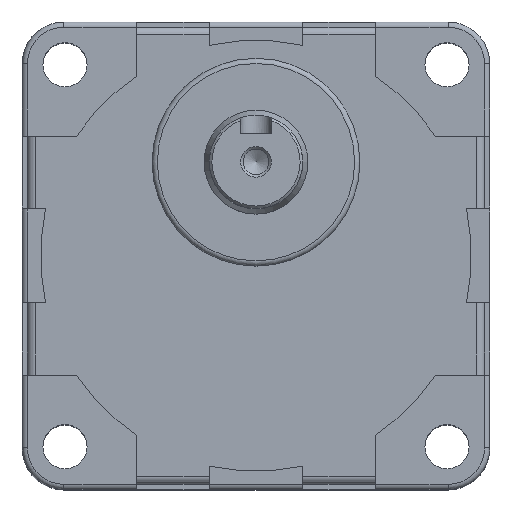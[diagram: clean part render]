
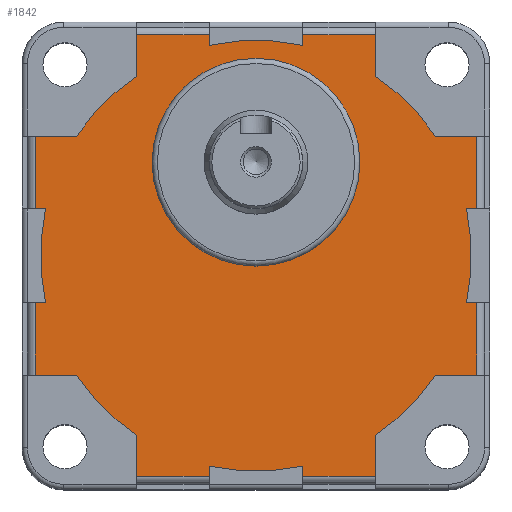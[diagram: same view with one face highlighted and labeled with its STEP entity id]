
A CAD part, top view. The second image highlights one B-rep face of the part: STEP entity #1842.
In plain terms, the highlighted planar face has unit normal (0, 0, 1).
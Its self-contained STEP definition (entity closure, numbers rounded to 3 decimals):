
#42=LINE('',#2827,#214);
#46=LINE('',#2839,#218);
#48=LINE('',#2845,#220);
#49=LINE('',#2849,#221);
#50=LINE('',#2851,#222);
#51=LINE('',#2853,#223);
#52=LINE('',#2857,#224);
#53=LINE('',#2859,#225);
#54=LINE('',#2861,#226);
#55=LINE('',#2865,#227);
#56=LINE('',#2867,#228);
#57=LINE('',#2869,#229);
#58=LINE('',#2873,#230);
#59=LINE('',#2875,#231);
#60=LINE('',#2877,#232);
#61=LINE('',#2881,#233);
#62=LINE('',#2883,#234);
#63=LINE('',#2885,#235);
#64=LINE('',#2889,#236);
#65=LINE('',#2891,#237);
#66=LINE('',#2893,#238);
#67=LINE('',#2896,#239);
#68=LINE('',#2898,#240);
#69=LINE('',#2901,#241);
#214=VECTOR('',#2241,14.);
#218=VECTOR('',#2251,14.);
#220=VECTOR('',#2257,7.957);
#221=VECTOR('',#2260,7.957);
#222=VECTOR('',#2261,14.);
#223=VECTOR('',#2262,1.988);
#224=VECTOR('',#2265,1.988);
#225=VECTOR('',#2266,14.);
#226=VECTOR('',#2267,7.957);
#227=VECTOR('',#2270,7.957);
#228=VECTOR('',#2271,14.);
#229=VECTOR('',#2272,1.988);
#230=VECTOR('',#2275,1.988);
#231=VECTOR('',#2276,14.);
#232=VECTOR('',#2277,7.957);
#233=VECTOR('',#2280,7.957);
#234=VECTOR('',#2281,14.);
#235=VECTOR('',#2282,1.988);
#236=VECTOR('',#2285,1.988);
#237=VECTOR('',#2286,14.);
#238=VECTOR('',#2287,7.957);
#239=VECTOR('',#2290,7.957);
#240=VECTOR('',#2291,1.988);
#241=VECTOR('',#2294,1.988);
#383=PLANE('',#1980);
#446=FACE_BOUND('',#606,.T.);
#480=FACE_OUTER_BOUND('',#605,.T.);
#605=EDGE_LOOP('',(#1324,#1325,#1326,#1327,#1328,#1329,#1330,#1331,#1332,
#1333,#1334,#1335,#1336,#1337,#1338,#1339,#1340,#1341,#1342,#1343,#1344,
#1345,#1346,#1347,#1348,#1349,#1350,#1351,#1352,#1353,#1354,#1355));
#606=EDGE_LOOP('',(#1356));
#720=CIRCLE('',#1971,20.);
#725=CIRCLE('',#1981,41.5);
#726=CIRCLE('',#1982,41.5);
#727=CIRCLE('',#1983,41.5);
#728=CIRCLE('',#1984,41.5);
#729=CIRCLE('',#1985,41.5);
#730=CIRCLE('',#1986,41.5);
#731=CIRCLE('',#1987,41.5);
#732=CIRCLE('',#1988,41.5);
#824=VERTEX_POINT('',#2816);
#825=VERTEX_POINT('',#2820);
#828=VERTEX_POINT('',#2825);
#832=VERTEX_POINT('',#2836);
#833=VERTEX_POINT('',#2838);
#835=VERTEX_POINT('',#2844);
#836=VERTEX_POINT('',#2846);
#837=VERTEX_POINT('',#2848);
#838=VERTEX_POINT('',#2850);
#839=VERTEX_POINT('',#2852);
#840=VERTEX_POINT('',#2854);
#841=VERTEX_POINT('',#2856);
#842=VERTEX_POINT('',#2858);
#843=VERTEX_POINT('',#2860);
#844=VERTEX_POINT('',#2862);
#845=VERTEX_POINT('',#2864);
#846=VERTEX_POINT('',#2866);
#847=VERTEX_POINT('',#2868);
#848=VERTEX_POINT('',#2870);
#849=VERTEX_POINT('',#2872);
#850=VERTEX_POINT('',#2874);
#851=VERTEX_POINT('',#2876);
#852=VERTEX_POINT('',#2878);
#853=VERTEX_POINT('',#2880);
#854=VERTEX_POINT('',#2882);
#855=VERTEX_POINT('',#2884);
#856=VERTEX_POINT('',#2886);
#857=VERTEX_POINT('',#2888);
#858=VERTEX_POINT('',#2890);
#859=VERTEX_POINT('',#2892);
#860=VERTEX_POINT('',#2894);
#861=VERTEX_POINT('',#2897);
#862=VERTEX_POINT('',#2899);
#1013=EDGE_CURVE('',#824,#824,#720,.T.);
#1017=EDGE_CURVE('',#828,#825,#42,.T.);
#1022=EDGE_CURVE('',#832,#833,#46,.T.);
#1025=EDGE_CURVE('',#828,#835,#48,.T.);
#1026=EDGE_CURVE('',#836,#835,#725,.T.);
#1027=EDGE_CURVE('',#837,#836,#49,.T.);
#1028=EDGE_CURVE('',#838,#837,#50,.T.);
#1029=EDGE_CURVE('',#839,#838,#51,.T.);
#1030=EDGE_CURVE('',#840,#839,#726,.T.);
#1031=EDGE_CURVE('',#840,#841,#52,.T.);
#1032=EDGE_CURVE('',#842,#841,#53,.T.);
#1033=EDGE_CURVE('',#842,#843,#54,.T.);
#1034=EDGE_CURVE('',#844,#843,#727,.T.);
#1035=EDGE_CURVE('',#845,#844,#55,.T.);
#1036=EDGE_CURVE('',#846,#845,#56,.T.);
#1037=EDGE_CURVE('',#847,#846,#57,.T.);
#1038=EDGE_CURVE('',#848,#847,#728,.T.);
#1039=EDGE_CURVE('',#848,#849,#58,.T.);
#1040=EDGE_CURVE('',#850,#849,#59,.T.);
#1041=EDGE_CURVE('',#850,#851,#60,.T.);
#1042=EDGE_CURVE('',#852,#851,#729,.T.);
#1043=EDGE_CURVE('',#853,#852,#61,.T.);
#1044=EDGE_CURVE('',#854,#853,#62,.T.);
#1045=EDGE_CURVE('',#855,#854,#63,.T.);
#1046=EDGE_CURVE('',#856,#855,#730,.T.);
#1047=EDGE_CURVE('',#856,#857,#64,.T.);
#1048=EDGE_CURVE('',#858,#857,#65,.T.);
#1049=EDGE_CURVE('',#858,#859,#66,.T.);
#1050=EDGE_CURVE('',#860,#859,#731,.T.);
#1051=EDGE_CURVE('',#833,#860,#67,.T.);
#1052=EDGE_CURVE('',#861,#832,#68,.T.);
#1053=EDGE_CURVE('',#862,#861,#732,.T.);
#1054=EDGE_CURVE('',#862,#825,#69,.T.);
#1324=ORIENTED_EDGE('',*,*,#1017,.F.);
#1325=ORIENTED_EDGE('',*,*,#1025,.T.);
#1326=ORIENTED_EDGE('',*,*,#1026,.F.);
#1327=ORIENTED_EDGE('',*,*,#1027,.F.);
#1328=ORIENTED_EDGE('',*,*,#1028,.F.);
#1329=ORIENTED_EDGE('',*,*,#1029,.F.);
#1330=ORIENTED_EDGE('',*,*,#1030,.F.);
#1331=ORIENTED_EDGE('',*,*,#1031,.T.);
#1332=ORIENTED_EDGE('',*,*,#1032,.F.);
#1333=ORIENTED_EDGE('',*,*,#1033,.T.);
#1334=ORIENTED_EDGE('',*,*,#1034,.F.);
#1335=ORIENTED_EDGE('',*,*,#1035,.F.);
#1336=ORIENTED_EDGE('',*,*,#1036,.F.);
#1337=ORIENTED_EDGE('',*,*,#1037,.F.);
#1338=ORIENTED_EDGE('',*,*,#1038,.F.);
#1339=ORIENTED_EDGE('',*,*,#1039,.T.);
#1340=ORIENTED_EDGE('',*,*,#1040,.F.);
#1341=ORIENTED_EDGE('',*,*,#1041,.T.);
#1342=ORIENTED_EDGE('',*,*,#1042,.F.);
#1343=ORIENTED_EDGE('',*,*,#1043,.F.);
#1344=ORIENTED_EDGE('',*,*,#1044,.F.);
#1345=ORIENTED_EDGE('',*,*,#1045,.F.);
#1346=ORIENTED_EDGE('',*,*,#1046,.F.);
#1347=ORIENTED_EDGE('',*,*,#1047,.T.);
#1348=ORIENTED_EDGE('',*,*,#1048,.F.);
#1349=ORIENTED_EDGE('',*,*,#1049,.T.);
#1350=ORIENTED_EDGE('',*,*,#1050,.F.);
#1351=ORIENTED_EDGE('',*,*,#1051,.F.);
#1352=ORIENTED_EDGE('',*,*,#1022,.F.);
#1353=ORIENTED_EDGE('',*,*,#1052,.F.);
#1354=ORIENTED_EDGE('',*,*,#1053,.F.);
#1355=ORIENTED_EDGE('',*,*,#1054,.T.);
#1356=ORIENTED_EDGE('',*,*,#1013,.F.);
#1842=ADVANCED_FACE('',(#480,#446),#383,.T.);
#1971=AXIS2_PLACEMENT_3D('',#2817,#2230,#2231);
#1980=AXIS2_PLACEMENT_3D('',#2843,#2255,#2256);
#1981=AXIS2_PLACEMENT_3D('',#2847,#2258,#2259);
#1982=AXIS2_PLACEMENT_3D('',#2855,#2263,#2264);
#1983=AXIS2_PLACEMENT_3D('',#2863,#2268,#2269);
#1984=AXIS2_PLACEMENT_3D('',#2871,#2273,#2274);
#1985=AXIS2_PLACEMENT_3D('',#2879,#2278,#2279);
#1986=AXIS2_PLACEMENT_3D('',#2887,#2283,#2284);
#1987=AXIS2_PLACEMENT_3D('',#2895,#2288,#2289);
#1988=AXIS2_PLACEMENT_3D('',#2900,#2292,#2293);
#2230=DIRECTION('center_axis',(0.,0.,1.));
#2231=DIRECTION('ref_axis',(-1.,0.,0.));
#2241=DIRECTION('',(0.,-1.,0.));
#2251=DIRECTION('',(0.,-1.,0.));
#2255=DIRECTION('center_axis',(0.,0.,1.));
#2256=DIRECTION('ref_axis',(1.,0.,0.));
#2257=DIRECTION('',(-1.,0.,0.));
#2258=DIRECTION('center_axis',(0.,0.,-1.));
#2259=DIRECTION('ref_axis',(-1.,0.,0.));
#2260=DIRECTION('',(0.,-1.,0.));
#2261=DIRECTION('',(1.,0.,0.));
#2262=DIRECTION('',(0.,1.,0.));
#2263=DIRECTION('center_axis',(0.,0.,-1.));
#2264=DIRECTION('ref_axis',(-1.,0.,0.));
#2265=DIRECTION('',(0.,1.,0.));
#2266=DIRECTION('',(1.,0.,0.));
#2267=DIRECTION('',(0.,-1.,0.));
#2268=DIRECTION('center_axis',(0.,0.,-1.));
#2269=DIRECTION('ref_axis',(-1.,0.,0.));
#2270=DIRECTION('',(1.,0.,0.));
#2271=DIRECTION('',(0.,1.,0.));
#2272=DIRECTION('',(-1.,0.,0.));
#2273=DIRECTION('center_axis',(0.,0.,-1.));
#2274=DIRECTION('ref_axis',(-1.,0.,0.));
#2275=DIRECTION('',(-1.,0.,0.));
#2276=DIRECTION('',(0.,1.,0.));
#2277=DIRECTION('',(1.,0.,0.));
#2278=DIRECTION('center_axis',(0.,0.,-1.));
#2279=DIRECTION('ref_axis',(-1.,0.,0.));
#2280=DIRECTION('',(0.,1.,0.));
#2281=DIRECTION('',(-1.,0.,0.));
#2282=DIRECTION('',(0.,-1.,0.));
#2283=DIRECTION('center_axis',(0.,0.,-1.));
#2284=DIRECTION('ref_axis',(-1.,0.,0.));
#2285=DIRECTION('',(0.,-1.,0.));
#2286=DIRECTION('',(-1.,0.,0.));
#2287=DIRECTION('',(0.,1.,0.));
#2288=DIRECTION('center_axis',(0.,0.,-1.));
#2289=DIRECTION('ref_axis',(-1.,0.,0.));
#2290=DIRECTION('',(-1.,0.,0.));
#2291=DIRECTION('',(1.,0.,0.));
#2292=DIRECTION('center_axis',(0.,0.,-1.));
#2293=DIRECTION('ref_axis',(-1.,0.,0.));
#2294=DIRECTION('',(1.,0.,0.));
#2816=CARTESIAN_POINT('',(20.,18.,57.2));
#2817=CARTESIAN_POINT('Origin',(0.,18.,57.2));
#2820=CARTESIAN_POINT('',(42.5,9.,57.2));
#2825=CARTESIAN_POINT('',(42.5,23.,57.2));
#2827=CARTESIAN_POINT('',(42.5,11.5,57.2));
#2836=CARTESIAN_POINT('',(42.5,-9.,57.2));
#2838=CARTESIAN_POINT('',(42.5,-23.,57.2));
#2839=CARTESIAN_POINT('',(42.5,-11.5,57.2));
#2843=CARTESIAN_POINT('Origin',(0.,0.,
57.2));
#2844=CARTESIAN_POINT('',(34.543,23.,57.2));
#2845=CARTESIAN_POINT('',(34.543,23.,57.2));
#2846=CARTESIAN_POINT('',(23.,34.543,57.2));
#2847=CARTESIAN_POINT('Origin',(0.,0.,57.2));
#2848=CARTESIAN_POINT('',(23.,42.5,57.2));
#2849=CARTESIAN_POINT('',(23.,34.543,57.2));
#2850=CARTESIAN_POINT('',(9.,42.5,57.2));
#2851=CARTESIAN_POINT('',(11.5,42.5,57.2));
#2852=CARTESIAN_POINT('',(9.,40.512,57.2));
#2853=CARTESIAN_POINT('',(9.,45.,57.2));
#2854=CARTESIAN_POINT('',(-9.,40.512,57.2));
#2855=CARTESIAN_POINT('Origin',(0.,0.,57.2));
#2856=CARTESIAN_POINT('',(-9.,42.5,57.2));
#2857=CARTESIAN_POINT('',(-9.,45.,57.2));
#2858=CARTESIAN_POINT('',(-23.,42.5,57.2));
#2859=CARTESIAN_POINT('',(-11.5,42.5,57.2));
#2860=CARTESIAN_POINT('',(-23.,34.543,57.2));
#2861=CARTESIAN_POINT('',(-23.,34.543,57.2));
#2862=CARTESIAN_POINT('',(-34.543,23.,57.2));
#2863=CARTESIAN_POINT('Origin',(0.,0.,57.2));
#2864=CARTESIAN_POINT('',(-42.5,23.,57.2));
#2865=CARTESIAN_POINT('',(-34.543,23.,57.2));
#2866=CARTESIAN_POINT('',(-42.5,9.,57.2));
#2867=CARTESIAN_POINT('',(-42.5,11.5,57.2));
#2868=CARTESIAN_POINT('',(-40.512,9.,57.2));
#2869=CARTESIAN_POINT('',(-45.,9.,57.2));
#2870=CARTESIAN_POINT('',(-40.512,-9.,57.2));
#2871=CARTESIAN_POINT('Origin',(0.,0.,57.2));
#2872=CARTESIAN_POINT('',(-42.5,-9.,57.2));
#2873=CARTESIAN_POINT('',(-45.,-9.,57.2));
#2874=CARTESIAN_POINT('',(-42.5,-23.,57.2));
#2875=CARTESIAN_POINT('',(-42.5,-11.5,57.2));
#2876=CARTESIAN_POINT('',(-34.543,-23.,57.2));
#2877=CARTESIAN_POINT('',(-34.543,-23.,57.2));
#2878=CARTESIAN_POINT('',(-23.,-34.543,57.2));
#2879=CARTESIAN_POINT('Origin',(0.,0.,57.2));
#2880=CARTESIAN_POINT('',(-23.,-42.5,57.2));
#2881=CARTESIAN_POINT('',(-23.,-34.543,57.2));
#2882=CARTESIAN_POINT('',(-9.,-42.5,57.2));
#2883=CARTESIAN_POINT('',(-11.5,-42.5,57.2));
#2884=CARTESIAN_POINT('',(-9.,-40.512,57.2));
#2885=CARTESIAN_POINT('',(-9.,-45.,57.2));
#2886=CARTESIAN_POINT('',(9.,-40.512,57.2));
#2887=CARTESIAN_POINT('Origin',(0.,0.,57.2));
#2888=CARTESIAN_POINT('',(9.,-42.5,57.2));
#2889=CARTESIAN_POINT('',(9.,-45.,57.2));
#2890=CARTESIAN_POINT('',(23.,-42.5,57.2));
#2891=CARTESIAN_POINT('',(11.5,-42.5,57.2));
#2892=CARTESIAN_POINT('',(23.,-34.543,57.2));
#2893=CARTESIAN_POINT('',(23.,-34.543,57.2));
#2894=CARTESIAN_POINT('',(34.543,-23.,57.2));
#2895=CARTESIAN_POINT('Origin',(0.,0.,57.2));
#2896=CARTESIAN_POINT('',(34.543,-23.,57.2));
#2897=CARTESIAN_POINT('',(40.512,-9.,57.2));
#2898=CARTESIAN_POINT('',(45.,-9.,57.2));
#2899=CARTESIAN_POINT('',(40.512,9.,57.2));
#2900=CARTESIAN_POINT('Origin',(0.,0.,57.2));
#2901=CARTESIAN_POINT('',(45.,9.,57.2));
